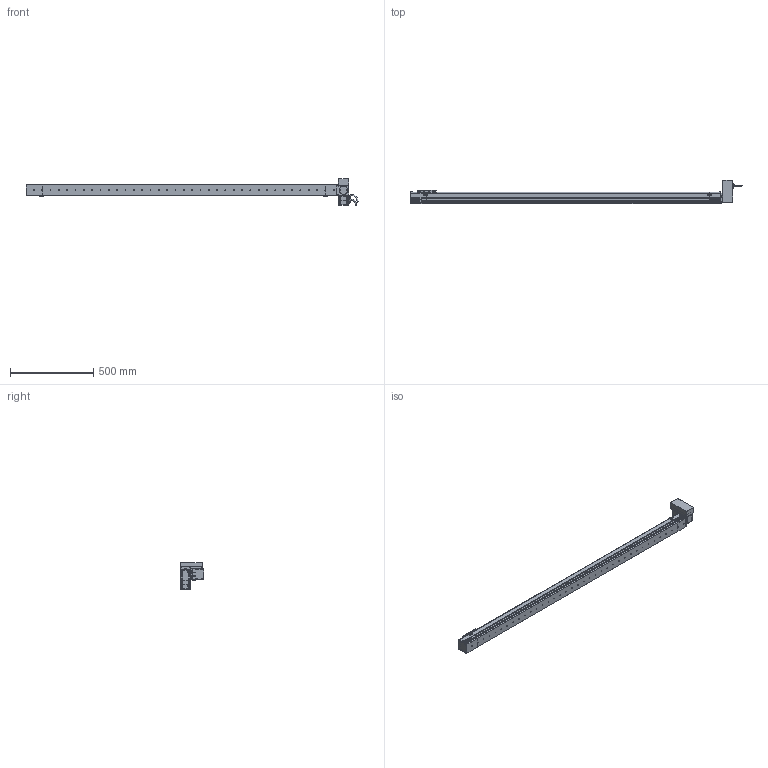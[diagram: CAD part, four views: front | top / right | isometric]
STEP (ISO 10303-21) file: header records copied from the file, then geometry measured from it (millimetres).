
FILE_DESCRIPTION (( 'STEP AP214' ), '1' );
FILE_NAME ('S07 CBN LT S1700.STEP', '2010-06-29T10:58:38', ( 'Conseil Régional Haute-Normandie' ), ( 'Conseil Régional Haute-Normandie' ), 'SwSTEP 2.0', 'SolidWorks 2010', '' );
FILE_SCHEMA (( 'AUTOMOTIVE_DESIGN' ));
Length unit declared in the file: millimetre
Products named in the file (31): plaque de serrage LT_Default; Support Moteur LT_Default; P1_Default; 60BLDC90A-640_Default; P2 90A_Default; P3 90A_Default; P4_Default; Axe 60BLDC_Default; Conecteur2 60BLDC_Default; Conecteur 60BLDC_Default; vis M5 L8_Default; support chariot_Default; chariot_Default; Chariot S07_Default; vis M5 L15_Default; plaque de serrage Tail_Default; Couvercle Tail_Default; Plaque de bout Tail_Default; S07 CBN LT S1700; VisM3_Default; Corp S07 S1700_Default; Couvercle S07 S1700_Default; Tail S07 Tail_Default; Corp Tail_Default; Head LT_Default; Plaque de bout LT_Default; Corp LT_Default; Couvercle LT_Default; Cache Support Moteur LT_Default; Rondelle de Serrage LT_Default
Assembly tree (71 placements, depth 4):
  S07 CBN LT S1700
    Chariot S07_Default
      vis M5 L8_Default  x8
      chariot_Default
      support chariot_Default
    Tail S07 Tail_Default
      Plaque de bout Tail_Default
      Couvercle Tail_Default
      vis M5 L15_Default  x6
      plaque de serrage Tail_Default
      Corp Tail_Default
    Head LT_Default
      Corp LT_Default
      vis M5 L15_Default  x16
      Rondelle de Serrage LT_Default  x3
      plaque de serrage LT_Default
      60BLDC90A-640_Default
        VisM3_Default  x12
        Axe 60BLDC_Default
        Conecteur 60BLDC_Default
        P2 90A_Default
        Conecteur2 60BLDC_Default
        P1_Default
        P3 90A_Default
        P4_Default
      Couvercle LT_Default
      Cache Support Moteur LT_Default
      Plaque de bout LT_Default
      Support Moteur LT_Default
    Corp S07 S1700_Default
      Couvercle S07 S1700_Default
      Corp S07 S1700_Default
Bounding box: 1993.2 x 141 x 162 mm (x, y, z)
Volume: 9357933 mm3; surface area: 1056953.4 mm2
Topology: 108 solids, 108 shells, 3952 faces, 9710 edges, 6252 vertices
Faces by surface type: plane 2270, bspline 756, cylinder 715, torus 112, cone 95, sphere 4
Entity records: 154953 total; most frequent: CARTESIAN_POINT 79851, ORIENTED_EDGE 14940, DIRECTION 11283, EDGE_CURVE 7470, VERTEX_POINT 4937, LINE 4813, VECTOR 4813, AXIS2_PLACEMENT_3D 3235
